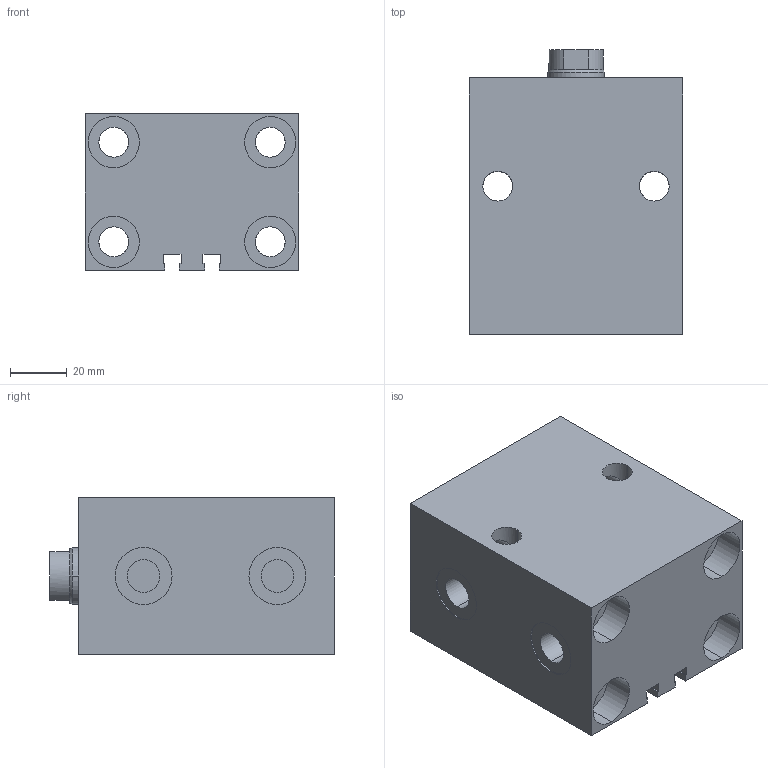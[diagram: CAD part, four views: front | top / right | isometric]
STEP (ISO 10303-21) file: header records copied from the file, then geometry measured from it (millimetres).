
FILE_DESCRIPTION (( 'STEP AP203' ), '1' );
FILE_NAME ('GERMA_Blockzylinder_700-032-025.STEP', '2016-07-22T09:02:04', ( '' ), ( '' ), 'SwSTEP 2.0', 'SolidWorks 2015', '' );
FILE_SCHEMA (( 'CONFIG_CONTROL_DESIGN' ));
Length unit declared in the file: millimetre
Products named in the file (3): Kolben_MT 70x-032_Kolben_MT DU.32-Hub25-IG; GH-700-032_GH-700-032-025; GERMA_Blockzylinder_700-032-025
Assembly tree (2 placements, depth 2):
  GERMA_Blockzylinder_700-032-025
    GH-700-032_GH-700-032-025
    Kolben_MT 70x-032_Kolben_MT DU.32-Hub25-IG
Bounding box: 75 x 100 x 55 mm (x, y, z)
Volume: 298796 mm3; surface area: 65310.7 mm2
Topology: 2 solids, 2 shells, 136 faces, 322 edges, 198 vertices
Faces by surface type: cylinder 75, plane 47, cone 14
Entity records: 4210 total; most frequent: CARTESIAN_POINT 751, DIRECTION 695, ORIENTED_EDGE 632, EDGE_CURVE 316, AXIS2_PLACEMENT_3D 270, VERTEX_POINT 198, EDGE_LOOP 170, LINE 155
